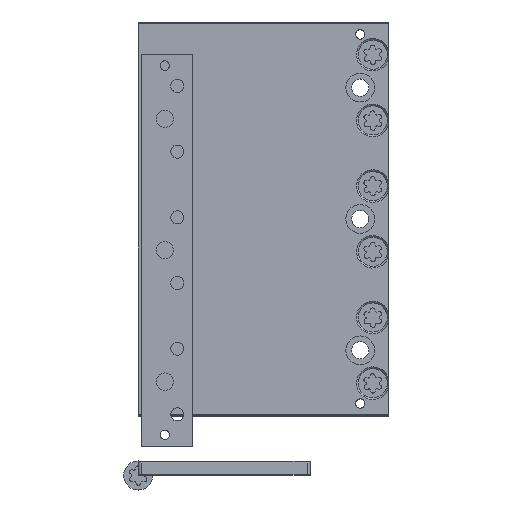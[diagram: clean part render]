
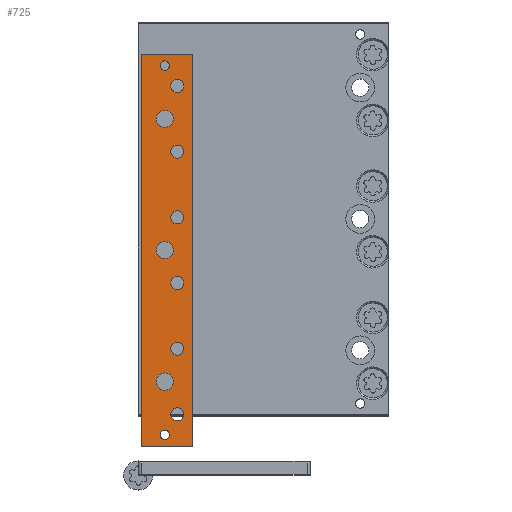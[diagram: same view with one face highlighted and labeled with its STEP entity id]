
A CAD part, top view. The second image highlights one B-rep face of the part: STEP entity #725.
In plain terms, the highlighted planar face has unit normal (0, 0, 1).
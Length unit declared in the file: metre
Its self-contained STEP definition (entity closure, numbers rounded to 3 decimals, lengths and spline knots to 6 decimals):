
#725 = ADVANCED_FACE( '', ( #1367, #1368, #1369, #1370, #1371, #1372, #1373, #1374, #1375, #1376, #1377, #1378 ), #1379, .T. );
#1367 = FACE_BOUND( '', #1962, .T. );
#1368 = FACE_BOUND( '', #1963, .T. );
#1369 = FACE_OUTER_BOUND( '', #1964, .T. );
#1370 = FACE_BOUND( '', #1965, .T. );
#1371 = FACE_BOUND( '', #1966, .T. );
#1372 = FACE_BOUND( '', #1967, .T. );
#1373 = FACE_BOUND( '', #1968, .T. );
#1374 = FACE_BOUND( '', #1969, .T. );
#1375 = FACE_BOUND( '', #1970, .T. );
#1376 = FACE_BOUND( '', #1971, .T. );
#1377 = FACE_BOUND( '', #1972, .T. );
#1378 = FACE_BOUND( '', #1973, .T. );
#1379 = PLANE( '', #1974 );
#1962 = EDGE_LOOP( '', ( #3421 ) );
#1963 = EDGE_LOOP( '', ( #3422 ) );
#1964 = EDGE_LOOP( '', ( #3423, #3424, #3425, #3426 ) );
#1965 = EDGE_LOOP( '', ( #3427 ) );
#1966 = EDGE_LOOP( '', ( #3428 ) );
#1967 = EDGE_LOOP( '', ( #3429 ) );
#1968 = EDGE_LOOP( '', ( #3430 ) );
#1969 = EDGE_LOOP( '', ( #3431 ) );
#1970 = EDGE_LOOP( '', ( #3432 ) );
#1971 = EDGE_LOOP( '', ( #3433 ) );
#1972 = EDGE_LOOP( '', ( #3434 ) );
#1973 = EDGE_LOOP( '', ( #3435 ) );
#1974 = AXIS2_PLACEMENT_3D( '', #3436, #3437, #3438 );
#3421 = ORIENTED_EDGE( '', *, *, #4314, .F. );
#3422 = ORIENTED_EDGE( '', *, *, #4315, .F. );
#3423 = ORIENTED_EDGE( '', *, *, #4306, .F. );
#3424 = ORIENTED_EDGE( '', *, *, #4316, .F. );
#3425 = ORIENTED_EDGE( '', *, *, #4317, .F. );
#3426 = ORIENTED_EDGE( '', *, *, #4318, .T. );
#3427 = ORIENTED_EDGE( '', *, *, #4319, .F. );
#3428 = ORIENTED_EDGE( '', *, *, #4320, .F. );
#3429 = ORIENTED_EDGE( '', *, *, #4321, .F. );
#3430 = ORIENTED_EDGE( '', *, *, #4322, .F. );
#3431 = ORIENTED_EDGE( '', *, *, #4323, .F. );
#3432 = ORIENTED_EDGE( '', *, *, #4324, .F. );
#3433 = ORIENTED_EDGE( '', *, *, #4325, .F. );
#3434 = ORIENTED_EDGE( '', *, *, #4326, .F. );
#3435 = ORIENTED_EDGE( '', *, *, #4327, .F. );
#3436 = CARTESIAN_POINT( '', ( 0.0175, 0.6, 0.0164 ) );
#3437 = DIRECTION( '', ( 0., 0., 1. ) );
#3438 = DIRECTION( '', ( 1., 0., 0. ) );
#4306 = EDGE_CURVE( '', #5120, #5122, #5123, .T. );
#4314 = EDGE_CURVE( '', #5136, #5136, #5137, .T. );
#4315 = EDGE_CURVE( '', #5138, #5138, #5139, .T. );
#4316 = EDGE_CURVE( '', #5140, #5120, #5141, .T. );
#4317 = EDGE_CURVE( '', #5142, #5140, #5143, .T. );
#4318 = EDGE_CURVE( '', #5142, #5122, #5144, .T. );
#4319 = EDGE_CURVE( '', #5145, #5145, #5146, .T. );
#4320 = EDGE_CURVE( '', #5147, #5147, #5148, .T. );
#4321 = EDGE_CURVE( '', #5149, #5149, #5150, .T. );
#4322 = EDGE_CURVE( '', #5151, #5151, #5152, .T. );
#4323 = EDGE_CURVE( '', #5153, #5153, #5154, .T. );
#4324 = EDGE_CURVE( '', #5155, #5155, #5156, .T. );
#4325 = EDGE_CURVE( '', #5157, #5157, #5158, .T. );
#4326 = EDGE_CURVE( '', #5159, #5159, #5160, .T. );
#4327 = EDGE_CURVE( '', #5161, #5161, #5162, .T. );
#5120 = VERTEX_POINT( '', #6094 );
#5122 = VERTEX_POINT( '', #6097 );
#5123 = LINE( '', #6098, #6099 );
#5136 = VERTEX_POINT( '', #6117 );
#5137 = CIRCLE( '', #6118, 0.0015 );
#5138 = VERTEX_POINT( '', #6119 );
#5139 = CIRCLE( '', #6120, 0.0015 );
#5140 = VERTEX_POINT( '', #6121 );
#5141 = LINE( '', #6122, #6123 );
#5142 = VERTEX_POINT( '', #6124 );
#5143 = LINE( '', #6125, #6126 );
#5144 = LINE( '', #6127, #6128 );
#5145 = VERTEX_POINT( '', #6129 );
#5146 = CIRCLE( '', #6130, 0.00275 );
#5147 = VERTEX_POINT( '', #6131 );
#5148 = CIRCLE( '', #6132, 0.0021 );
#5149 = VERTEX_POINT( '', #6133 );
#5150 = CIRCLE( '', #6134, 0.0021 );
#5151 = VERTEX_POINT( '', #6135 );
#5152 = CIRCLE( '', #6136, 0.00275 );
#5153 = VERTEX_POINT( '', #6137 );
#5154 = CIRCLE( '', #6138, 0.0021 );
#5155 = VERTEX_POINT( '', #6139 );
#5156 = CIRCLE( '', #6140, 0.0021 );
#5157 = VERTEX_POINT( '', #6141 );
#5158 = CIRCLE( '', #6142, 0.00275 );
#5159 = VERTEX_POINT( '', #6143 );
#5160 = CIRCLE( '', #6144, 0.0021 );
#5161 = VERTEX_POINT( '', #6145 );
#5162 = CIRCLE( '', #6146, 0.0021 );
#6094 = CARTESIAN_POINT( '', ( 0.0175, 0.0093, 0.0164 ) );
#6097 = CARTESIAN_POINT( '', ( 0.001, 0.0093, 0.0164 ) );
#6098 = CARTESIAN_POINT( '', ( 0.042991, 0.0093, 0.0164 ) );
#6099 = VECTOR( '', #7117, 1. );
#6117 = CARTESIAN_POINT( '', ( 0.0085, 0.0145, 0.0164 ) );
#6118 = AXIS2_PLACEMENT_3D( '', #7129, #7130, #7131 );
#6119 = CARTESIAN_POINT( '', ( 0.0085, 0.1325, 0.0164 ) );
#6120 = AXIS2_PLACEMENT_3D( '', #7132, #7133, #7134 );
#6121 = CARTESIAN_POINT( '', ( 0.0175, 0.1347, 0.0164 ) );
#6122 = CARTESIAN_POINT( '', ( 0.0175, 0.6, 0.0164 ) );
#6123 = VECTOR( '', #7135, 1. );
#6124 = CARTESIAN_POINT( '', ( 0.001, 0.1347, 0.0164 ) );
#6125 = CARTESIAN_POINT( '', ( -0.054572, 0.1347, 0.0164 ) );
#6126 = VECTOR( '', #7136, 1. );
#6127 = CARTESIAN_POINT( '', ( 0.001, 0.6, 0.0164 ) );
#6128 = VECTOR( '', #7137, 1. );
#6129 = CARTESIAN_POINT( '', ( 0.0085, 0.11675, 0.0164 ) );
#6130 = AXIS2_PLACEMENT_3D( '', #7138, #7139, #7140 );
#6131 = CARTESIAN_POINT( '', ( 0.0125, 0.1056, 0.0164 ) );
#6132 = AXIS2_PLACEMENT_3D( '', #7141, #7142, #7143 );
#6133 = CARTESIAN_POINT( '', ( 0.0125, 0.1266, 0.0164 ) );
#6134 = AXIS2_PLACEMENT_3D( '', #7144, #7145, #7146 );
#6135 = CARTESIAN_POINT( '', ( 0.0085, 0.07475, 0.0164 ) );
#6136 = AXIS2_PLACEMENT_3D( '', #7147, #7148, #7149 );
#6137 = CARTESIAN_POINT( '', ( 0.0125, 0.0636, 0.0164 ) );
#6138 = AXIS2_PLACEMENT_3D( '', #7150, #7151, #7152 );
#6139 = CARTESIAN_POINT( '', ( 0.0125, 0.0846, 0.0164 ) );
#6140 = AXIS2_PLACEMENT_3D( '', #7153, #7154, #7155 );
#6141 = CARTESIAN_POINT( '', ( 0.0085, 0.03275, 0.0164 ) );
#6142 = AXIS2_PLACEMENT_3D( '', #7156, #7157, #7158 );
#6143 = CARTESIAN_POINT( '', ( 0.0125, 0.0216, 0.0164 ) );
#6144 = AXIS2_PLACEMENT_3D( '', #7159, #7160, #7161 );
#6145 = CARTESIAN_POINT( '', ( 0.0125, 0.0426, 0.0164 ) );
#6146 = AXIS2_PLACEMENT_3D( '', #7162, #7163, #7164 );
#7117 = DIRECTION( '', ( -1., 0., 0. ) );
#7129 = CARTESIAN_POINT( '', ( 0.0085, 0.013, 0.0164 ) );
#7130 = DIRECTION( '', ( 0., 0., 1. ) );
#7131 = DIRECTION( '', ( 0., 1., 0. ) );
#7132 = CARTESIAN_POINT( '', ( 0.0085, 0.131, 0.0164 ) );
#7133 = DIRECTION( '', ( 0., 0., 1. ) );
#7134 = DIRECTION( '', ( 0., 1., 0. ) );
#7135 = DIRECTION( '', ( 0., -1., 0. ) );
#7136 = DIRECTION( '', ( 1., 0., 0. ) );
#7137 = DIRECTION( '', ( 0., -1., 0. ) );
#7138 = CARTESIAN_POINT( '', ( 0.0085, 0.114, 0.0164 ) );
#7139 = DIRECTION( '', ( 0., 0., 1. ) );
#7140 = DIRECTION( '', ( 0., 1., 0. ) );
#7141 = CARTESIAN_POINT( '', ( 0.0125, 0.1035, 0.0164 ) );
#7142 = DIRECTION( '', ( 0., 0., 1. ) );
#7143 = DIRECTION( '', ( 0., 1., 0. ) );
#7144 = CARTESIAN_POINT( '', ( 0.0125, 0.1245, 0.0164 ) );
#7145 = DIRECTION( '', ( 0., 0., 1. ) );
#7146 = DIRECTION( '', ( 0., 1., 0. ) );
#7147 = CARTESIAN_POINT( '', ( 0.0085, 0.072, 0.0164 ) );
#7148 = DIRECTION( '', ( 0., 0., 1. ) );
#7149 = DIRECTION( '', ( 0., 1., 0. ) );
#7150 = CARTESIAN_POINT( '', ( 0.0125, 0.0615, 0.0164 ) );
#7151 = DIRECTION( '', ( 0., 0., 1. ) );
#7152 = DIRECTION( '', ( 0., 1., 0. ) );
#7153 = CARTESIAN_POINT( '', ( 0.0125, 0.0825, 0.0164 ) );
#7154 = DIRECTION( '', ( 0., 0., 1. ) );
#7155 = DIRECTION( '', ( 0., 1., 0. ) );
#7156 = CARTESIAN_POINT( '', ( 0.0085, 0.03, 0.0164 ) );
#7157 = DIRECTION( '', ( 0., 0., 1. ) );
#7158 = DIRECTION( '', ( 0., 1., 0. ) );
#7159 = CARTESIAN_POINT( '', ( 0.0125, 0.0195, 0.0164 ) );
#7160 = DIRECTION( '', ( 0., 0., 1. ) );
#7161 = DIRECTION( '', ( 0., 1., 0. ) );
#7162 = CARTESIAN_POINT( '', ( 0.0125, 0.0405, 0.0164 ) );
#7163 = DIRECTION( '', ( 0., 0., 1. ) );
#7164 = DIRECTION( '', ( 0., 1., 0. ) );
